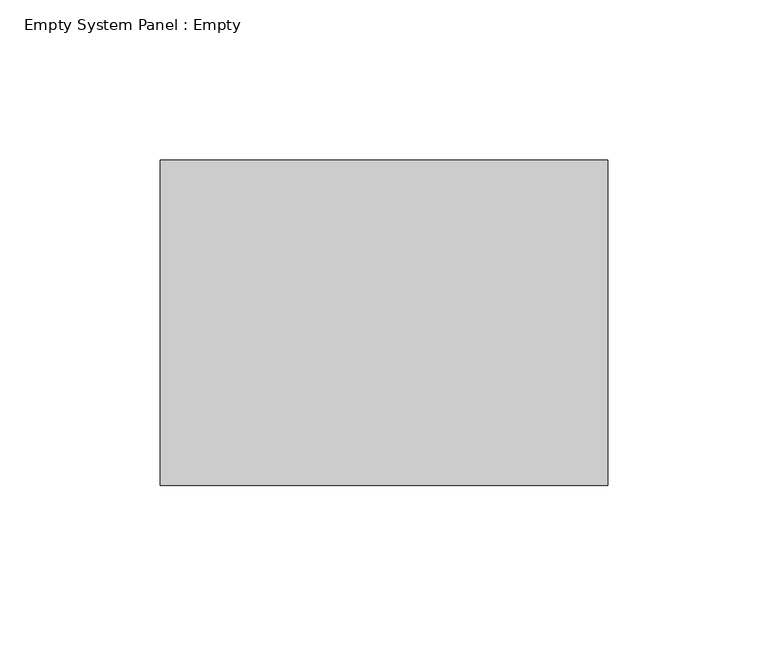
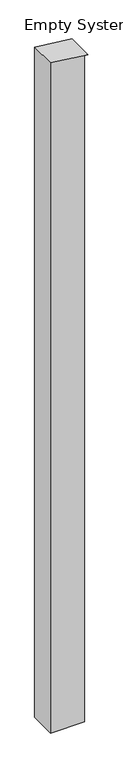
"""IFC4 building model written with IfcOpenShell, lengths in millimetres: plate geometry, Empty System Panel : Empty."""

from ifc_helpers import new_model, si_unit, frame, origin, place, context, project, spatial, polyline, outline, extrude, source, transform, mapped, element, save


def empty_system_panel_empty_9f1369e4(model_context):
    return source(origin(), model_context, "Body", "SweptSolid", [
        extrude(outline(polyline([(0.0, -69.85), (0.0, 57.15), (2622.0370576, 57.15), (2622.0370576, 69.85), (2637.6622475, -69.85), (0.0, -69.85)])), frame((0.0, -50.8, 0.0), z_axis=(0.0, 1.0, 0.0), x_axis=(0.0, 0.0, 1.0)), (0.0, 0.0, 1.0), 101.6),
    ])


if __name__ == "__main__":
    model = new_model("IFC4")
    model_context = context("Model", 3, world=origin())
    ifc_project = project(units=[si_unit("LENGTHUNIT", "METRE", prefix="MILLI")], contexts=[model_context])
    site = spatial("IfcSite", under=ifc_project)
    building = spatial("IfcBuilding", under=site)
    placement = place(None, origin())
    empty_system_panel_empty_shape = empty_system_panel_empty_9f1369e4(model_context)
    element("IfcPlate", 1, ObjectType="Empty System Panel : Empty", at=placement, inside=building, context=model_context, shape_type="MappedRepresentation", body=[
        mapped(empty_system_panel_empty_shape, transform((0.0, 0.0, 0.0), x_axis=(1.0, 0.0, 0.0), y_axis=(0.0, 1.0, 0.0), z_axis=(0.0, 0.0, 1.0))),
    ])
    save(model, "model.ifc")
